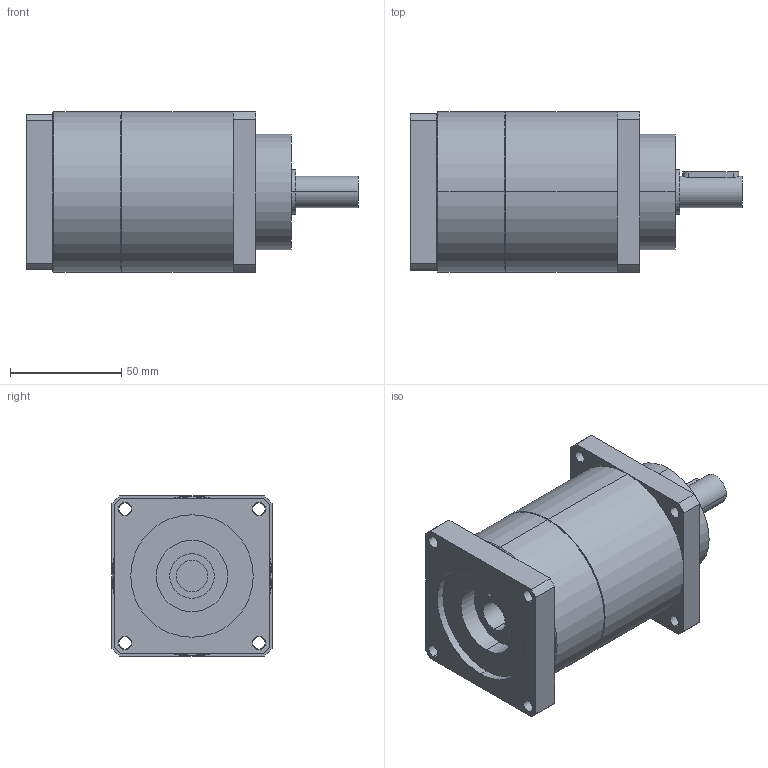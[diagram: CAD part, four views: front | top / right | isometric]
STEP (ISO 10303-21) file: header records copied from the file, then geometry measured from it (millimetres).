
FILE_DESCRIPTION(('CoCreate Modeling STEP Export'),'2;1');
FILE_NAME('GPT75_ig-9-12-16-20-25-28-35-40-50-70-100_14_B5T_14_P25.stp','2014-08-27T13:38:08',(''),(''),'CoCreate Modeling STEP processor for AP214 (Solid Model)','CoCreate Modeling 16.00C 25-Feb-2009 (C) Parametric Technology GmbH','');
FILE_SCHEMA(('AUTOMOTIVE_DESIGN { 1 0 10303 214 1 1 1 1 }'));
Length unit declared in the file: millimetre
Products named in the file (2): GPT75_ig-9-12-16-20-25-28-35-40-50-70-100_14_B5T_14_P25
Assembly tree (1 placements, depth 2):
  GPT75_ig-9-12-16-20-25-28-35-40-50-70-100_14_B5T_14_P25
    GPT75_ig-9-12-16-20-25-28-35-40-50-70-100_14_B5T_14_P25
Bounding box: 149 x 72 x 72 mm (x, y, z)
Volume: 457687.2 mm3; surface area: 45233.1 mm2
Topology: 1 solids, 1 shells, 84 faces, 210 edges, 137 vertices
Faces by surface type: cylinder 46, plane 34, cone 4
Entity records: 2588 total; most frequent: CARTESIAN_POINT 732, ORIENTED_EDGE 420, DIRECTION 326, EDGE_CURVE 210, VERTEX_POINT 137, AXIS2_PLACEMENT_3D 119, EDGE_LOOP 109, VECTOR 88
